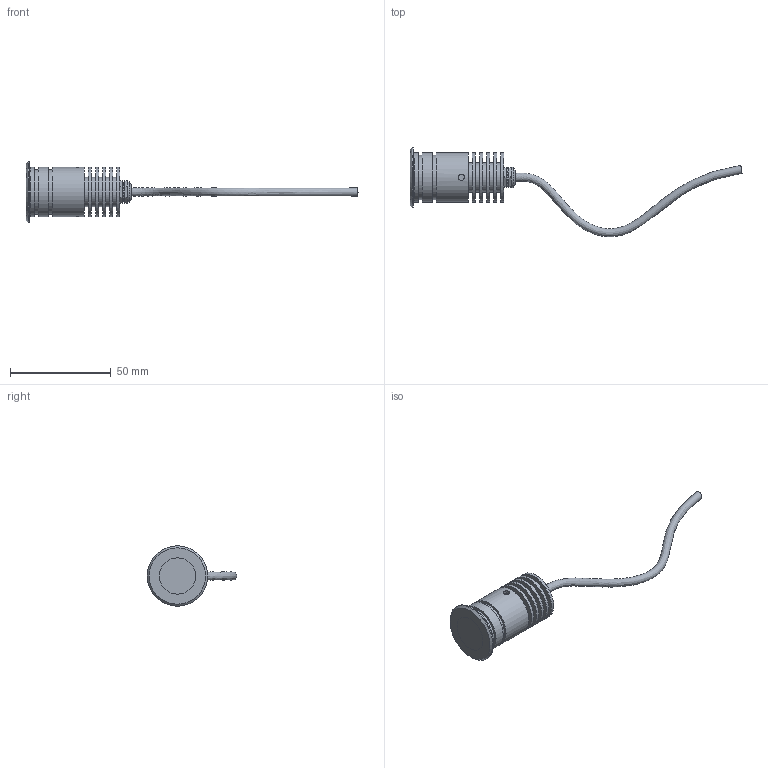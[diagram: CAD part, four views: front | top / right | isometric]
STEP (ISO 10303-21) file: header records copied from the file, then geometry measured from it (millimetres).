
FILE_DESCRIPTION(/* description */ (''),/* implementation_level */ '2;1');
FILE_NAME(/* name */ 'C:/Users/elena/OneDrive/Allegati di posta elettronica/Desktop/Pinolo recessed.step',/* time_stamp */ '2020-06-09T13:27:56+02:00',/* author */ (''),/* organization */ (''),/* preprocessor_version */ 'ST-DEVELOPER v18.1',/* originating_system */ 'Autodesk Translation Framework v9.3.0.1241',/* authorisation */ '');
FILE_SCHEMA (('AUTOMOTIVE_DESIGN { 1 0 10303 214 3 1 1 }'));
Length unit declared in the file: millimetre
Products named in the file (1): (Unsaved)
Bounding box: 164.78 x 44.47 x 30 mm (x, y, z)
Volume: 17503.1 mm3; surface area: 12395.6 mm2
Topology: 4 solids, 4 shells, 103 faces, 200 edges, 129 vertices
Faces by surface type: plane 54, cylinder 40, cone 6, torus 2, bspline 1
Full cylindrical faces by diameter (mm): 3 x2, 5 x1, 10.127 x1, 14.5 x5, 18 x2, 19.9 x1, 20 x1, 22 x3, 23.5 x1, 24.5 x8, 30 x1
Entity records: 3211 total; most frequent: CARTESIAN_POINT 967, DIRECTION 492, ORIENTED_EDGE 400, EDGE_CURVE 200, AXIS2_PLACEMENT_3D 200, EDGE_LOOP 129, VERTEX_POINT 129, FACE_OUTER_BOUND 103
